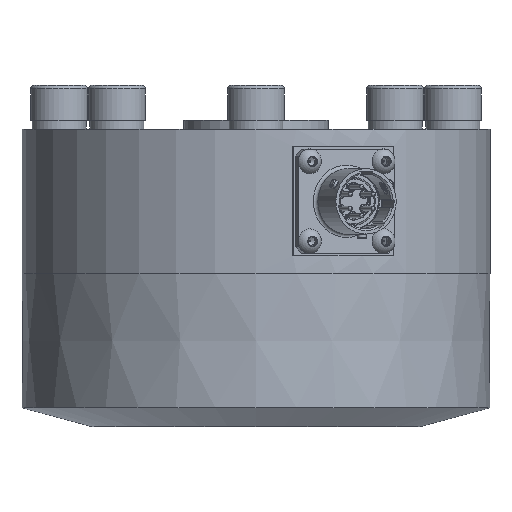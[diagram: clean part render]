
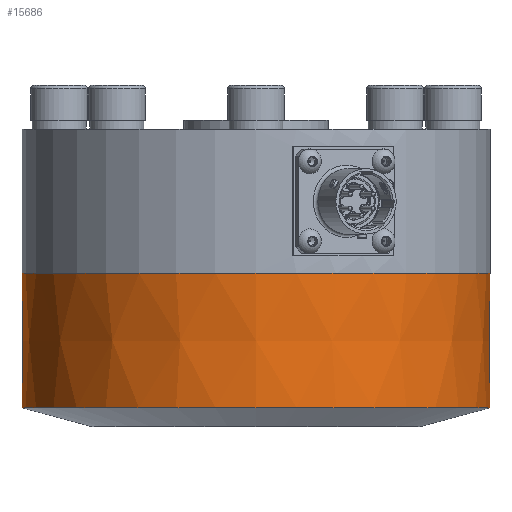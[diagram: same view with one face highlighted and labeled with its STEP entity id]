
A CAD part, left-side view. The second image highlights one B-rep face of the part: STEP entity #15686.
In plain terms, the highlighted conical face has half-angle 0.013 degrees and reference radius 53.497 mm.
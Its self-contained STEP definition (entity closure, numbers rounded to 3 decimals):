
#283=CONICAL_SURFACE('',#16928,53.497,0.);
#1229=CIRCLE('',#16926,53.493);
#1230=CIRCLE('',#16927,53.493);
#1231=CIRCLE('',#16929,53.5);
#1232=CIRCLE('',#16930,53.5);
#2092=FACE_OUTER_BOUND('',#3027,.T.);
#3027=EDGE_LOOP('',(#12027,#12028,#12029,#12030,#12031,#12032));
#4518=LINE('',#29371,#5624);
#5624=VECTOR('',#19625,53.497);
#6922=VERTEX_POINT('',#29361);
#6923=VERTEX_POINT('',#29362);
#6924=VERTEX_POINT('',#29367);
#6925=VERTEX_POINT('',#29368);
#8829=EDGE_CURVE('',#6922,#6923,#1229,.T.);
#8830=EDGE_CURVE('',#6923,#6922,#1230,.T.);
#8832=EDGE_CURVE('',#6924,#6925,#1231,.T.);
#8833=EDGE_CURVE('',#6925,#6924,#1232,.T.);
#8834=EDGE_CURVE('',#6925,#6923,#4518,.T.);
#12027=ORIENTED_EDGE('',*,*,#8832,.F.);
#12028=ORIENTED_EDGE('',*,*,#8833,.F.);
#12029=ORIENTED_EDGE('',*,*,#8834,.T.);
#12030=ORIENTED_EDGE('',*,*,#8830,.T.);
#12031=ORIENTED_EDGE('',*,*,#8829,.T.);
#12032=ORIENTED_EDGE('',*,*,#8834,.F.);
#15686=ADVANCED_FACE('',(#2092),#283,.T.);
#16926=AXIS2_PLACEMENT_3D('',#29363,#19614,#19615);
#16927=AXIS2_PLACEMENT_3D('',#29364,#19616,#19617);
#16928=AXIS2_PLACEMENT_3D('',#29366,#19619,#19620);
#16929=AXIS2_PLACEMENT_3D('',#29369,#19621,#19622);
#16930=AXIS2_PLACEMENT_3D('',#29370,#19623,#19624);
#19614=DIRECTION('center_axis',(0.,0.,1.));
#19615=DIRECTION('ref_axis',(1.,0.,0.));
#19616=DIRECTION('center_axis',(0.,0.,1.));
#19617=DIRECTION('ref_axis',(1.,0.,0.));
#19619=DIRECTION('center_axis',(0.,0.,1.));
#19620=DIRECTION('ref_axis',(1.,0.,0.));
#19621=DIRECTION('center_axis',(0.,0.,1.));
#19622=DIRECTION('ref_axis',(1.,0.,0.));
#19623=DIRECTION('center_axis',(0.,0.,1.));
#19624=DIRECTION('ref_axis',(1.,0.,0.));
#19625=DIRECTION('',(0.,0.,-1.));
#29361=CARTESIAN_POINT('',(53.493,0.,-32.715));
#29362=CARTESIAN_POINT('',(-53.493,0.,-32.715));
#29363=CARTESIAN_POINT('Origin',(0.,0.,-32.715));
#29364=CARTESIAN_POINT('Origin',(0.,0.,-32.715));
#29366=CARTESIAN_POINT('Origin',(0.,0.,-17.357));
#29367=CARTESIAN_POINT('',(53.5,0.,-2.));
#29368=CARTESIAN_POINT('',(-53.5,0.,-2.));
#29369=CARTESIAN_POINT('Origin',(0.,0.,-2.));
#29370=CARTESIAN_POINT('Origin',(0.,0.,-2.));
#29371=CARTESIAN_POINT('',(-53.497,0.,-17.357));
